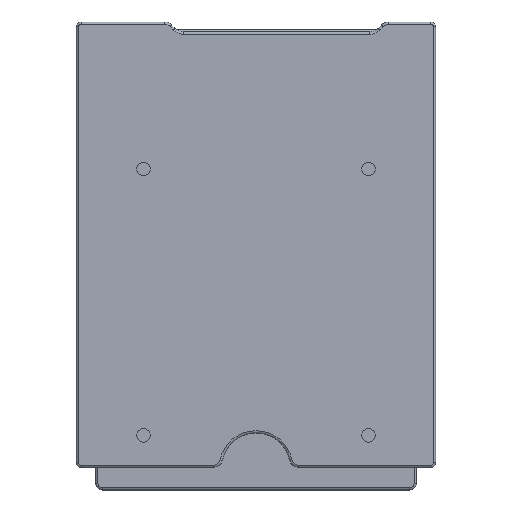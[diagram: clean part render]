
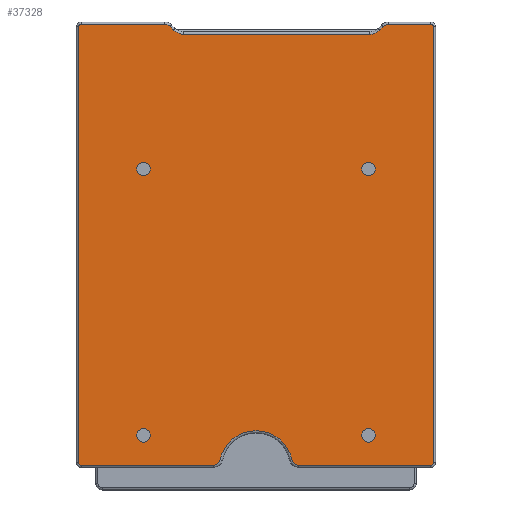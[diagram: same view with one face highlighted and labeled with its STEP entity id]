
A CAD part, front view. The second image highlights one B-rep face of the part: STEP entity #37328.
In plain terms, the highlighted planar face has unit normal (0, -1, 0).
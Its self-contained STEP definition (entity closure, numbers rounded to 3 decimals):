
#302=FACE_BOUND('',#4240,.T.);
#303=FACE_BOUND('',#4241,.T.);
#304=FACE_BOUND('',#4242,.T.);
#305=FACE_BOUND('',#4243,.T.);
#2269=FACE_OUTER_BOUND('',#4239,.T.);
#4239=EDGE_LOOP('',(#33468,#33469,#33470,#33471,#33472,#33473,#33474,#33475,
#33476,#33477,#33478,#33479,#33480,#33481,#33482,#33483,#33484,#33485,#33486,
#33487));
#4240=EDGE_LOOP('',(#33488));
#4241=EDGE_LOOP('',(#33489));
#4242=EDGE_LOOP('',(#33490));
#4243=EDGE_LOOP('',(#33491));
#4556=CIRCLE('',#39445,0.5);
#4561=CIRCLE('',#39451,0.5);
#4564=CIRCLE('',#39456,1.75);
#4568=CIRCLE('',#39462,3.);
#4572=CIRCLE('',#39468,3.);
#4575=CIRCLE('',#39473,1.75);
#4579=CIRCLE('',#39478,0.5);
#4583=CIRCLE('',#39483,0.5);
#4587=CIRCLE('',#39489,1.5);
#4590=CIRCLE('',#39493,8.);
#4593=CIRCLE('',#39497,1.5);
#4601=CIRCLE('',#39517,1.5);
#4602=CIRCLE('',#39518,1.5);
#4603=CIRCLE('',#39519,1.5);
#4604=CIRCLE('',#39520,1.5);
#9344=LINE('',#60580,#14228);
#9345=LINE('',#60596,#14229);
#9347=LINE('',#60606,#14231);
#9349=LINE('',#60618,#14233);
#9351=LINE('',#60629,#14235);
#9353=LINE('',#60639,#14237);
#9355=LINE('',#60659,#14239);
#9357=LINE('',#60679,#14241);
#9358=LINE('',#60699,#14242);
#14228=VECTOR('',#48390,10.);
#14229=VECTOR('',#48399,10.);
#14231=VECTOR('',#48411,10.);
#14233=VECTOR('',#48425,10.);
#14235=VECTOR('',#48439,10.);
#14237=VECTOR('',#48451,10.);
#14239=VECTOR('',#48463,10.);
#14241=VECTOR('',#48475,10.);
#14242=VECTOR('',#48502,10.);
#17768=VERTEX_POINT('',#60571);
#17769=VERTEX_POINT('',#60573);
#17770=VERTEX_POINT('',#60578);
#17771=VERTEX_POINT('',#60590);
#17772=VERTEX_POINT('',#60594);
#17773=VERTEX_POINT('',#60598);
#17774=VERTEX_POINT('',#60602);
#17776=VERTEX_POINT('',#60608);
#17778=VERTEX_POINT('',#60614);
#17780=VERTEX_POINT('',#60620);
#17782=VERTEX_POINT('',#60626);
#17783=VERTEX_POINT('',#60631);
#17784=VERTEX_POINT('',#60635);
#17786=VERTEX_POINT('',#60649);
#17788=VERTEX_POINT('',#60655);
#17790=VERTEX_POINT('',#60669);
#17792=VERTEX_POINT('',#60675);
#17794=VERTEX_POINT('',#60681);
#17796=VERTEX_POINT('',#60687);
#17798=VERTEX_POINT('',#60693);
#17838=VERTEX_POINT('',#60798);
#17839=VERTEX_POINT('',#60800);
#17840=VERTEX_POINT('',#60802);
#17841=VERTEX_POINT('',#60804);
#22980=EDGE_CURVE('',#17768,#17769,#4556,.T.);
#22984=EDGE_CURVE('',#17769,#17770,#9344,.T.);
#22986=EDGE_CURVE('',#17770,#17771,#4561,.T.);
#22988=EDGE_CURVE('',#17771,#17772,#9345,.T.);
#22990=EDGE_CURVE('',#17772,#17773,#4564,.T.);
#22993=EDGE_CURVE('',#17773,#17774,#9347,.T.);
#22996=EDGE_CURVE('',#17774,#17776,#4568,.T.);
#22999=EDGE_CURVE('',#17776,#17778,#9349,.T.);
#23002=EDGE_CURVE('',#17778,#17780,#4572,.T.);
#23005=EDGE_CURVE('',#17780,#17782,#9351,.T.);
#23007=EDGE_CURVE('',#17782,#17783,#4575,.T.);
#23010=EDGE_CURVE('',#17783,#17784,#9353,.T.);
#23013=EDGE_CURVE('',#17784,#17786,#4579,.T.);
#23016=EDGE_CURVE('',#17786,#17788,#9355,.T.);
#23019=EDGE_CURVE('',#17788,#17790,#4583,.T.);
#23022=EDGE_CURVE('',#17790,#17792,#9357,.T.);
#23025=EDGE_CURVE('',#17792,#17794,#4587,.T.);
#23028=EDGE_CURVE('',#17794,#17796,#4590,.T.);
#23031=EDGE_CURVE('',#17796,#17798,#4593,.T.);
#23032=EDGE_CURVE('',#17798,#17768,#9358,.T.);
#23082=EDGE_CURVE('',#17838,#17838,#4601,.T.);
#23083=EDGE_CURVE('',#17839,#17839,#4602,.T.);
#23084=EDGE_CURVE('',#17840,#17840,#4603,.T.);
#23085=EDGE_CURVE('',#17841,#17841,#4604,.T.);
#33468=ORIENTED_EDGE('',*,*,#22980,.F.);
#33469=ORIENTED_EDGE('',*,*,#23032,.F.);
#33470=ORIENTED_EDGE('',*,*,#23031,.F.);
#33471=ORIENTED_EDGE('',*,*,#23028,.F.);
#33472=ORIENTED_EDGE('',*,*,#23025,.F.);
#33473=ORIENTED_EDGE('',*,*,#23022,.F.);
#33474=ORIENTED_EDGE('',*,*,#23019,.F.);
#33475=ORIENTED_EDGE('',*,*,#23016,.F.);
#33476=ORIENTED_EDGE('',*,*,#23013,.F.);
#33477=ORIENTED_EDGE('',*,*,#23010,.F.);
#33478=ORIENTED_EDGE('',*,*,#23007,.F.);
#33479=ORIENTED_EDGE('',*,*,#23005,.F.);
#33480=ORIENTED_EDGE('',*,*,#23002,.F.);
#33481=ORIENTED_EDGE('',*,*,#22999,.F.);
#33482=ORIENTED_EDGE('',*,*,#22996,.F.);
#33483=ORIENTED_EDGE('',*,*,#22993,.F.);
#33484=ORIENTED_EDGE('',*,*,#22990,.F.);
#33485=ORIENTED_EDGE('',*,*,#22988,.F.);
#33486=ORIENTED_EDGE('',*,*,#22986,.F.);
#33487=ORIENTED_EDGE('',*,*,#22984,.F.);
#33488=ORIENTED_EDGE('',*,*,#23082,.T.);
#33489=ORIENTED_EDGE('',*,*,#23083,.T.);
#33490=ORIENTED_EDGE('',*,*,#23084,.T.);
#33491=ORIENTED_EDGE('',*,*,#23085,.T.);
#35470=PLANE('',#39516);
#37328=ADVANCED_FACE('',(#2269,#302,#303,#304,#305),#35470,.T.);
#39445=AXIS2_PLACEMENT_3D('',#60574,#48380,#48381);
#39451=AXIS2_PLACEMENT_3D('',#60592,#48393,#48394);
#39456=AXIS2_PLACEMENT_3D('',#60600,#48404,#48405);
#39462=AXIS2_PLACEMENT_3D('',#60612,#48418,#48419);
#39468=AXIS2_PLACEMENT_3D('',#60624,#48432,#48433);
#39473=AXIS2_PLACEMENT_3D('',#60633,#48444,#48445);
#39478=AXIS2_PLACEMENT_3D('',#60653,#48456,#48457);
#39483=AXIS2_PLACEMENT_3D('',#60673,#48468,#48469);
#39489=AXIS2_PLACEMENT_3D('',#60685,#48482,#48483);
#39493=AXIS2_PLACEMENT_3D('',#60691,#48490,#48491);
#39497=AXIS2_PLACEMENT_3D('',#60697,#48498,#48499);
#39516=AXIS2_PLACEMENT_3D('',#60797,#48579,#48580);
#39517=AXIS2_PLACEMENT_3D('',#60799,#48581,#48582);
#39518=AXIS2_PLACEMENT_3D('',#60801,#48583,#48584);
#39519=AXIS2_PLACEMENT_3D('',#60803,#48585,#48586);
#39520=AXIS2_PLACEMENT_3D('',#60805,#48587,#48588);
#48380=DIRECTION('center_axis',(0.,1.,0.));
#48381=DIRECTION('ref_axis',(-0.707,0.,-0.707));
#48390=DIRECTION('',(0.,0.,1.));
#48393=DIRECTION('center_axis',(0.,1.,0.));
#48394=DIRECTION('ref_axis',(-0.707,0.,0.707));
#48399=DIRECTION('',(1.,0.,0.));
#48404=DIRECTION('center_axis',(0.,1.,0.));
#48405=DIRECTION('ref_axis',(0.383,0.,0.924));
#48411=DIRECTION('',(0.707,0.,-0.707));
#48418=DIRECTION('center_axis',(0.,-1.,0.));
#48419=DIRECTION('ref_axis',(-0.383,0.,-0.924));
#48425=DIRECTION('',(1.,0.,0.));
#48432=DIRECTION('center_axis',(0.,-1.,0.));
#48433=DIRECTION('ref_axis',(0.383,0.,-0.924));
#48439=DIRECTION('',(0.707,0.,0.707));
#48444=DIRECTION('center_axis',(0.,1.,0.));
#48445=DIRECTION('ref_axis',(-0.383,0.,0.924));
#48451=DIRECTION('',(1.,0.,0.));
#48456=DIRECTION('center_axis',(0.,1.,0.));
#48457=DIRECTION('ref_axis',(0.707,0.,0.707));
#48463=DIRECTION('',(0.,0.,-1.));
#48468=DIRECTION('center_axis',(0.,1.,0.));
#48469=DIRECTION('ref_axis',(0.707,0.,-0.707));
#48475=DIRECTION('',(-1.,0.,0.));
#48482=DIRECTION('center_axis',(0.,1.,0.));
#48483=DIRECTION('ref_axis',(-0.628,0.,-0.778));
#48490=DIRECTION('center_axis',(0.,-1.,0.));
#48491=DIRECTION('ref_axis',(0.,0.,1.));
#48498=DIRECTION('center_axis',(0.,1.,0.));
#48499=DIRECTION('ref_axis',(0.628,0.,-0.778));
#48502=DIRECTION('',(-1.,0.,0.));
#48579=DIRECTION('center_axis',(0.,-1.,0.));
#48580=DIRECTION('ref_axis',(1.,0.,0.));
#48581=DIRECTION('center_axis',(0.,1.,0.));
#48582=DIRECTION('ref_axis',(1.,0.,0.));
#48583=DIRECTION('center_axis',(0.,1.,0.));
#48584=DIRECTION('ref_axis',(1.,0.,0.));
#48585=DIRECTION('center_axis',(0.,1.,0.));
#48586=DIRECTION('ref_axis',(1.,0.,0.));
#48587=DIRECTION('center_axis',(0.,1.,0.));
#48588=DIRECTION('ref_axis',(1.,0.,0.));
#60571=CARTESIAN_POINT('',(-82.62,-2.585,-145.6));
#60573=CARTESIAN_POINT('',(-83.12,-2.585,-145.1));
#60574=CARTESIAN_POINT('Origin',(-82.62,-2.585,-145.1));
#60578=CARTESIAN_POINT('',(-83.12,-2.585,-50.1));
#60580=CARTESIAN_POINT('',(-83.12,-2.585,-146.1));
#60590=CARTESIAN_POINT('',(-82.62,-2.585,-49.6));
#60592=CARTESIAN_POINT('Origin',(-82.62,-2.585,-50.1));
#60594=CARTESIAN_POINT('',(-64.452,-2.585,-49.6));
#60596=CARTESIAN_POINT('',(-64.07,-2.585,-49.6));
#60598=CARTESIAN_POINT('',(-63.215,-2.585,-50.113));
#60600=CARTESIAN_POINT('Origin',(-64.452,-2.585,-51.35));
#60602=CARTESIAN_POINT('',(-62.437,-2.585,-50.89));
#60606=CARTESIAN_POINT('',(-32.899,-2.585,-80.429));
#60608=CARTESIAN_POINT('',(-60.316,-2.585,-51.769));
#60612=CARTESIAN_POINT('Origin',(-60.316,-2.585,-48.769));
#60614=CARTESIAN_POINT('',(-19.724,-2.585,-51.769));
#60618=CARTESIAN_POINT('',(-61.82,-2.585,-51.769));
#60620=CARTESIAN_POINT('',(-17.603,-2.585,-50.89));
#60624=CARTESIAN_POINT('Origin',(-19.724,-2.585,-48.769));
#60626=CARTESIAN_POINT('',(-16.825,-2.585,-50.113));
#60629=CARTESIAN_POINT('',(-57.191,-2.585,-90.479));
#60631=CARTESIAN_POINT('',(-15.588,-2.585,-49.6));
#60633=CARTESIAN_POINT('Origin',(-15.588,-2.585,-51.35));
#60635=CARTESIAN_POINT('',(-6.42,-2.585,-49.6));
#60639=CARTESIAN_POINT('',(-64.07,-2.585,-49.6));
#60649=CARTESIAN_POINT('',(-5.92,-2.585,-50.1));
#60653=CARTESIAN_POINT('Origin',(-6.42,-2.585,-50.1));
#60655=CARTESIAN_POINT('',(-5.92,-2.585,-145.1));
#60659=CARTESIAN_POINT('',(-5.92,-2.585,-146.1));
#60669=CARTESIAN_POINT('',(-6.42,-2.585,-145.6));
#60673=CARTESIAN_POINT('Origin',(-6.42,-2.585,-145.1));
#60675=CARTESIAN_POINT('',(-35.233,-2.585,-145.6));
#60679=CARTESIAN_POINT('',(-64.07,-2.585,-145.6));
#60681=CARTESIAN_POINT('',(-36.699,-2.585,-144.416));
#60685=CARTESIAN_POINT('Origin',(-35.233,-2.585,-144.1));
#60687=CARTESIAN_POINT('',(-52.341,-2.585,-144.416));
#60691=CARTESIAN_POINT('Origin',(-44.52,-2.585,-146.1));
#60693=CARTESIAN_POINT('',(-53.807,-2.585,-145.6));
#60697=CARTESIAN_POINT('Origin',(-53.807,-2.585,-144.1));
#60699=CARTESIAN_POINT('',(-64.07,-2.585,-145.6));
#60797=CARTESIAN_POINT('Origin',(-83.62,-2.585,-146.1));
#60798=CARTESIAN_POINT('',(-21.52,-2.585,-139.1));
#60799=CARTESIAN_POINT('Origin',(-20.02,-2.585,-139.1));
#60800=CARTESIAN_POINT('',(-21.52,-2.585,-81.1));
#60801=CARTESIAN_POINT('Origin',(-20.02,-2.585,-81.1));
#60802=CARTESIAN_POINT('',(-70.52,-2.585,-139.1));
#60803=CARTESIAN_POINT('Origin',(-69.02,-2.585,-139.1));
#60804=CARTESIAN_POINT('',(-70.52,-2.585,-81.1));
#60805=CARTESIAN_POINT('Origin',(-69.02,-2.585,-81.1));
